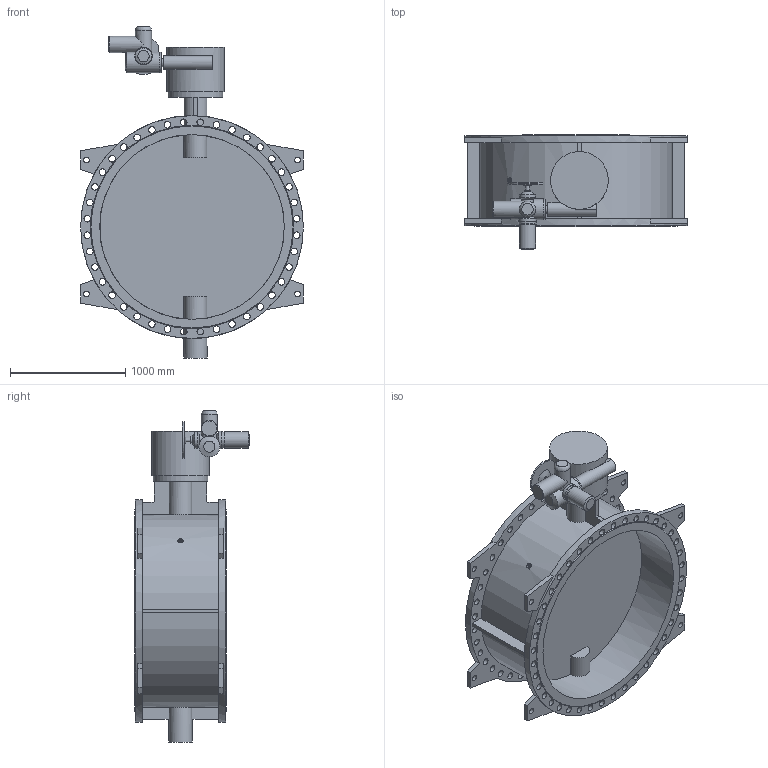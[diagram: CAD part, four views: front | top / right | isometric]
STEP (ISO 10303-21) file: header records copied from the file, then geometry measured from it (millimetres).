
FILE_DESCRIPTION(('STEP AP203'), '1');
FILE_NAME('Çàòâîð 023F.Z DN1600 PN16 + ðåäóêòîð + ÌÒ903.À30', '', ('UNSPECIFIED'), ('UNSPECIFIED'), 'ASCON STEP Converter 1.6', 'ASCON Math Kernel', '');
FILE_SCHEMA(('CONFIG_CONTROL_DESIGN'));
Length unit declared in the file: millimetre
Bounding box: 1930 x 989 x 2876 mm (x, y, z)
Volume: 586051455.5 mm3; surface area: 19044055.5 mm2
Topology: 1 solids, 1 shells, 284 faces, 716 edges, 470 vertices
Faces by surface type: cylinder 154, plane 118, cone 11, torus 1
Full cylindrical faces by diameter (mm): 14 x4, 18 x4, 32 x1, 33 x8, 39 x8, 50 x8, 57 x80, 60 x1, 70 x1, 100 x1, 120 x1, 140 x4, 147 x1, 151 x1, 175 x1, 180 x1, 200 x1, 475 x1, 500 x1, 1600 x2, 1930 x2
Entity records: 12379 total; most frequent: CARTESIAN_POINT 3243, DIRECTION 1431, ORIENTED_EDGE 1140, EDGE_LOOP 639, AXIS2_PLACEMENT_3D 616, EDGE_CURVE 570, VERTEX_POINT 469, FACE_BOUND 368
